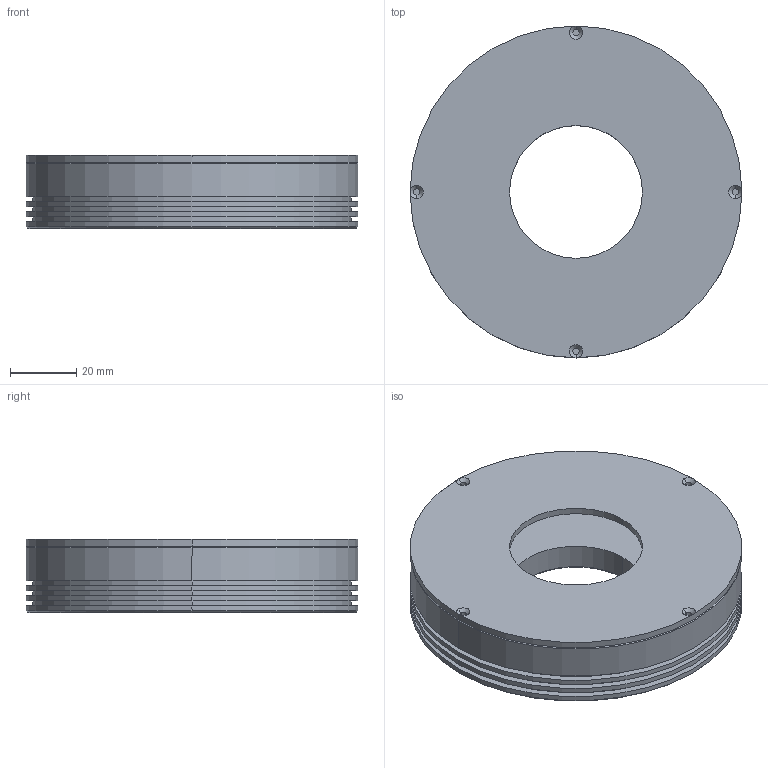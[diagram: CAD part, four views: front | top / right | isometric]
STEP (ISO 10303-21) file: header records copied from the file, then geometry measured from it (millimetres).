
FILE_DESCRIPTION((''),'2;1');
FILE_NAME('TRL-140-0','2020-03-28T',('ASUS'),(''),'PRO/ENGINEER BY PARAMETRIC TECHNOLOGY CORPORATION, 2008380','PRO/ENGINEER BY PARAMETRIC TECHNOLOGY CORPORATION, 2008380','');
FILE_SCHEMA(('CONFIG_CONTROL_DESIGN'));
Length unit declared in the file: millimetre
Products named in the file (1): TRL-140-0
Bounding box: 100 x 100 x 22 mm (x, y, z)
Volume: 73792 mm3; surface area: 40420 mm2
Topology: 1 solids, 1 shells, 71 faces, 146 edges, 90 vertices
Faces by surface type: cylinder 38, plane 19, cone 14
Entity records: 1940 total; most frequent: DIRECTION 382, CARTESIAN_POINT 307, ORIENTED_EDGE 292, AXIS2_PLACEMENT_3D 165, EDGE_CURVE 146, CIRCLE 94, VERTEX_POINT 90, EDGE_LOOP 86
